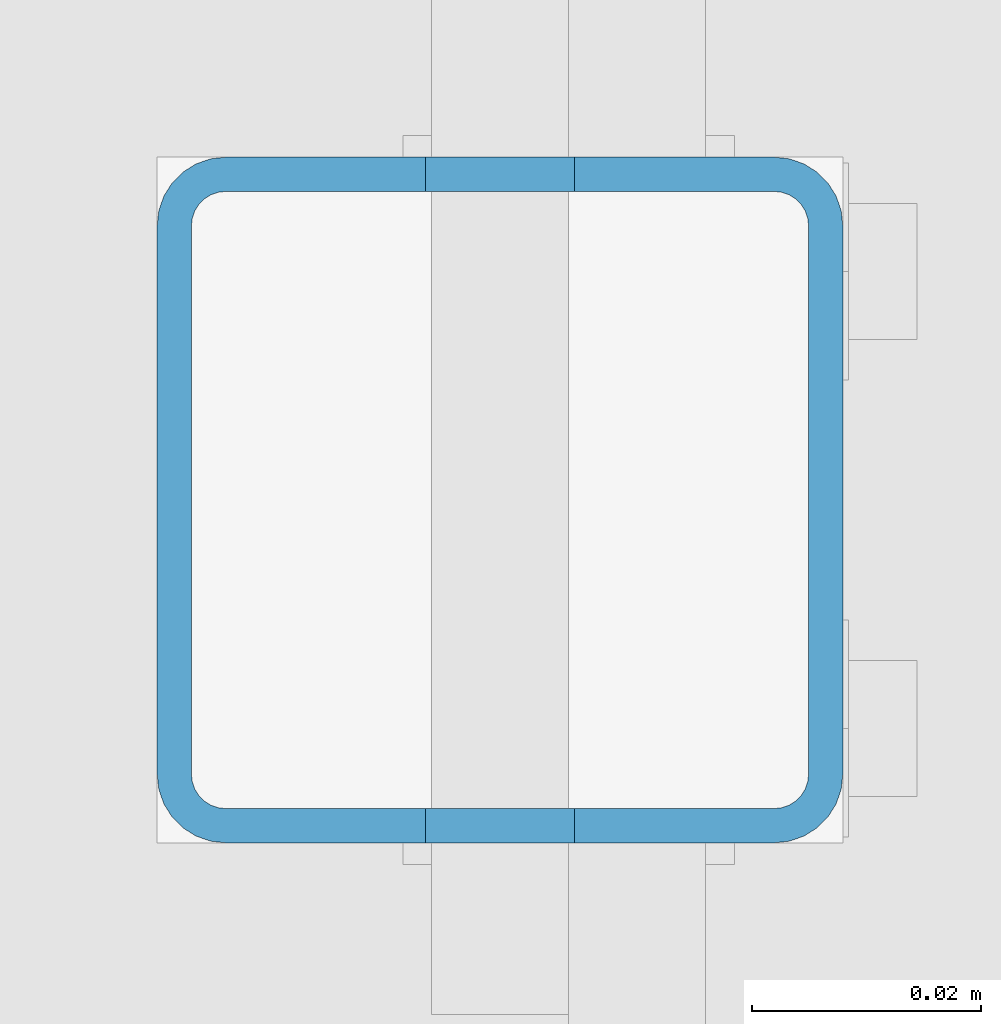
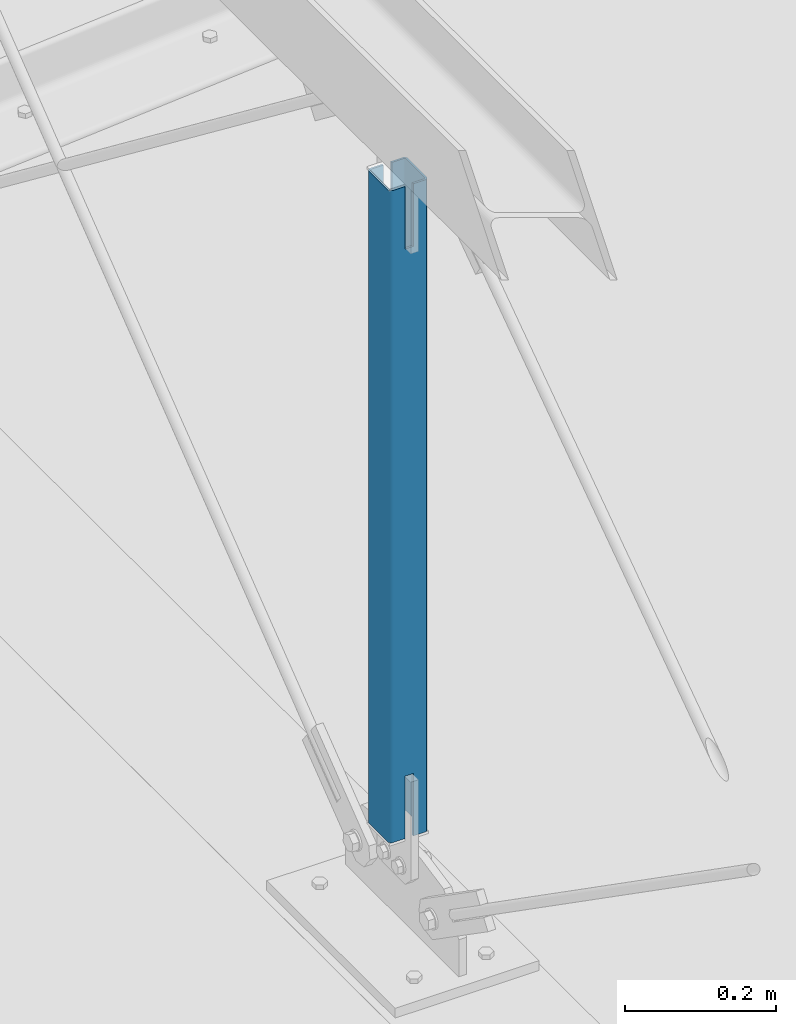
# One storey, part 19 of 271: 1 beam, 1 element without a shape of its own.
"""IFC2X3 building model written with IfcOpenShell, lengths in millimetres."""

import ifcopenshell
import ifcopenshell.guid

model = None  # the IFC model being written
_history = None  # IfcOwnerHistory: only IFC2X3 demands one
_inside = {}  # id of a spatial element -> (the spatial element, [elements in it])
_under = {}  # id of a project, library or spatial element -> (it, [spatial elements below it])
_declared = {}  # id of a project -> (the project, [libraries it declares])
_typed = {}  # id of a type object -> (the type object, [elements of that type])
_made_of = {}  # id of a material, layer set ... -> (it, [elements and type objects made of it])


def new_model(schema):
    """Start an empty IFC model of exactly this schema.

    Asked for "IFC4X3", IfcOpenShell would pick the latest addendum, in which some entities
    have other attributes; the version numbers below select the first issue.
    IFC2X3 requires an IfcOwnerHistory on every rooted entity: one is made here for all.
    """
    global model, _history
    if schema == "IFC4X3":
        model = ifcopenshell.file(schema_version=(4, 3, 0, 0))
    else:
        model = ifcopenshell.file(schema=schema)
    _inside.clear()
    _under.clear()
    _declared.clear()
    _typed.clear()
    _made_of.clear()
    _history = None
    if model.schema == "IFC2X3":
        org = make("IfcOrganization", Name="unknown")
        user = make(
            "IfcPersonAndOrganization",
            ThePerson=make("IfcPerson", FamilyName="unknown"),
            TheOrganization=org,
        )
        app = make(
            "IfcApplication",
            ApplicationDeveloper=org,
            Version="unknown",
            ApplicationFullName="unknown",
            ApplicationIdentifier="unknown",
        )
        _history = make(
            "IfcOwnerHistory",
            OwningUser=user,
            OwningApplication=app,
            ChangeAction="ADDED",
            CreationDate=0,
        )
    return model


def make(cls, **values):
    """One entity of the class cls with the attributes given. An attribute that is None is left unset."""
    return model.create_entity(
        cls, **{name: value for name, value in values.items() if value is not None}
    )


def rooted(cls, **values):
    """An entity with a GlobalId (a new one), such as an element, a storey or a relation."""
    return make(cls, GlobalId=ifcopenshell.guid.new(), OwnerHistory=_history, **values)


def si_unit(unit_type, name, prefix=None):
    """IfcSIUnit, for example si_unit("LENGTHUNIT", "METRE", prefix="MILLI")."""
    return make("IfcSIUnit", UnitType=unit_type, Prefix=prefix, Name=name)


def assignment(units):
    """IfcUnitAssignment: the units of a project."""
    return None if units is None else make("IfcUnitAssignment", Units=units)


def point(xyz):
    """IfcCartesianPoint."""
    return None if xyz is None else make("IfcCartesianPoint", Coordinates=xyz)


def direction(xyz):
    """IfcDirection."""
    return None if xyz is None else make("IfcDirection", DirectionRatios=xyz)


def frame(location, z_axis=None, x_axis=None):
    """IfcAxis2Placement3D, a coordinate frame: its origin and axes. An axis left out is left unset."""
    return make(
        "IfcAxis2Placement3D",
        Location=point(location),
        Axis=direction(z_axis),
        RefDirection=direction(x_axis),
    )


def frame_2d(location, x_axis=None):
    """IfcAxis2Placement2D, a coordinate frame in the plane: its origin and x axis."""
    return make(
        "IfcAxis2Placement2D", Location=point(location), RefDirection=direction(x_axis)
    )


def origin_with_axes():
    """The frame at (0, 0, 0) with the z axis (0, 0, 1) and the x axis (1, 0, 0) written out."""
    return frame((0.0, 0.0, 0.0), z_axis=(0.0, 0.0, 1.0), x_axis=(1.0, 0.0, 0.0))


def origin_2d_with_axis():
    """The frame at (0, 0) in the plane with the x axis (1, 0) written out."""
    return frame_2d((0.0, 0.0), x_axis=(1.0, 0.0))


def place(relative_to, where):
    """IfcLocalPlacement: puts the frame where relative to a parent placement (None: the world)."""
    return make(
        "IfcLocalPlacement", PlacementRelTo=relative_to, RelativePlacement=where
    )


def context(
    kind, dimensions, precision=None, world=None, true_north=None, identifier=None
):
    """IfcGeometricRepresentationContext, for example the 3D "Model" context."""
    return make(
        "IfcGeometricRepresentationContext",
        ContextIdentifier=identifier,
        ContextType=kind,
        CoordinateSpaceDimension=dimensions,
        Precision=precision,
        WorldCoordinateSystem=world,
        TrueNorth=true_north,
    )


def subcontext(parent, identifier, kind, view, scale=None):
    """IfcGeometricRepresentationSubContext, for example "Body" below "Model"."""
    return make(
        "IfcGeometricRepresentationSubContext",
        ContextIdentifier=identifier,
        ContextType=kind,
        ParentContext=parent,
        TargetScale=scale,
        TargetView=view,
    )


def project(units=None, contexts=None):
    """IfcProject with its units and contexts."""
    return rooted(
        "IfcProject",
        Name="project",
        RepresentationContexts=contexts,
        UnitsInContext=assignment(units),
    )


def spatial(cls, under=None, at=None, **own):
    """A site, building, storey or space (cls), placed at a placement, below another one or the project."""
    s = rooted(cls, ObjectPlacement=at, **own)
    if under is not None:
        _under.setdefault(under.id(), (under, []))[1].append(s)
    return s


def profile(cls, at=None, kind="AREA", **sizes):
    """A parametric profile (cls). Its sizes go by their IFC names, for example OverallWidth=200.0."""
    return make(cls, ProfileType=kind, Position=at, **sizes)


def rectangle(**sizes):
    """IfcRectangleProfileDef."""
    return profile("IfcRectangleProfileDef", **sizes)


def hollow_rectangle(**sizes):
    """IfcRectangleHollowProfileDef."""
    return profile("IfcRectangleHollowProfileDef", **sizes)


def extrude(swept, where, along, depth):
    """IfcExtrudedAreaSolid: the profile swept, set in the frame where, extruded along a direction by depth."""
    return make(
        "IfcExtrudedAreaSolid",
        SweptArea=swept,
        Position=where,
        ExtrudedDirection=direction(along),
        Depth=depth,
    )


def boolean(op, a, b):
    """IfcBooleanResult of two solids."""
    return make("IfcBooleanResult", Operator=op, FirstOperand=a, SecondOperand=b)


def halfspace(plane, agree):
    """IfcHalfSpaceSolid: all space on one side of the plane z = 0 of the frame plane."""
    return make(
        "IfcHalfSpaceSolid",
        BaseSurface=make("IfcPlane", Position=plane),
        AgreementFlag=agree,
    )


def shape(context_of_items, identifier, shape_type, items):
    """IfcShapeRepresentation: the items that make up one representation, for example the "Body"."""
    return make(
        "IfcShapeRepresentation",
        ContextOfItems=context_of_items,
        RepresentationIdentifier=identifier,
        RepresentationType=shape_type,
        Items=items,
    )


def material(Name=None, Category=None):
    """IfcMaterial."""
    return make("IfcMaterial", Name=Name, Category=Category)


def made_of(thing, what):
    """Note that an element or type object is made of a material, layer set ...; save() writes the relation."""
    if what is not None:
        _made_of.setdefault(what.id(), (what, []))[1].append(thing)
    return thing


def type_object(cls, material=None, **own):
    """A type object (cls), such as IfcWallType, which elements share."""
    return made_of(rooted(cls, **own), material)


def element(
    cls,
    number,
    at=None,
    inside=None,
    cuts=None,
    type_object=None,
    material=None,
    context=None,
    identifier="Body",
    shape_type=None,
    held_by="IfcProductDefinitionShape",
    body=None,
    shapes=None,
    **own,
):
    """One element of the class cls, such as IfcWall. Its Tag is "e" and its number.

    at: its placement. inside: the storey or other place that contains it. cuts: it is an
    opening in that element (IfcRelVoidsElement). A single representation is given by context,
    identifier, shape_type and body (its items); several are given by shapes. held_by: the class
    of the entity that holds the representations. save() writes the other relations.
    """
    e = rooted(cls, Tag="e%d" % number, ObjectPlacement=at, **own)
    if body is not None:
        shapes = [shape(context, identifier, shape_type, body)]
    if shapes is not None:
        e.Representation = make(held_by, Representations=shapes)
    if inside is not None:
        _inside.setdefault(inside.id(), (inside, []))[1].append(e)
    if cuts is not None:
        rooted(
            "IfcRelVoidsElement", RelatingBuildingElement=cuts, RelatedOpeningElement=e
        )
    if type_object is not None:
        _typed.setdefault(type_object.id(), (type_object, []))[1].append(e)
    return made_of(e, material)


def aggregate(whole, parts):
    """IfcRelAggregates: a whole, such as a stair, and the parts it consists of."""
    return rooted("IfcRelAggregates", RelatingObject=whole, RelatedObjects=parts)


def save(model, path):
    """Write the relations noted so far, then the file.

    IfcRelAggregates (storeys below a building ...), IfcRelContainedInSpatialStructure (elements
    in a storey), IfcRelDefinesByType, IfcRelAssociatesMaterial and IfcRelDeclares: one each for
    every whole, place, type object, material and project.
    """
    for whole, parts in _under.values():
        aggregate(whole, parts)
    for where, things in _inside.values():
        rooted(
            "IfcRelContainedInSpatialStructure",
            RelatedElements=things,
            RelatingStructure=where,
        )
    for kind, things in _typed.values():
        rooted("IfcRelDefinesByType", RelatedObjects=things, RelatingType=kind)
    for what, things in _made_of.values():
        rooted("IfcRelAssociatesMaterial", RelatedObjects=things, RelatingMaterial=what)
    for by, libraries in _declared.values():
        rooted("IfcRelDeclares", RelatingContext=by, RelatedDefinitions=libraries)
    model.write(path)


model = new_model("IFC2X3")

# Units and contexts
model_context = context("Model", 3, precision=1e-05, world=origin_with_axes())
body_context = subcontext(model_context, "Body", "Model", "MODEL_VIEW")
ifc_project = project(units=[si_unit("LENGTHUNIT", "METRE", prefix="MILLI"), si_unit("AREAUNIT", "SQUARE_METRE"), si_unit("VOLUMEUNIT", "CUBIC_METRE"), si_unit("MASSUNIT", "GRAM", prefix="KILO"), si_unit("TIMEUNIT", "SECOND"), si_unit("PLANEANGLEUNIT", "RADIAN"), si_unit("SOLIDANGLEUNIT", "STERADIAN"), si_unit("THERMODYNAMICTEMPERATUREUNIT", "DEGREE_CELSIUS"), si_unit("LUMINOUSINTENSITYUNIT", "LUMEN")], contexts=[model_context])

# Site, building, storey
site_placement = place(None, origin_with_axes())
site = spatial("IfcSite", under=ifc_project, at=site_placement, Name="Undefined", CompositionType="ELEMENT")
building_placement = place(site_placement, origin_with_axes())
building = spatial("IfcBuilding", under=site, at=building_placement, Name="Undefined", CompositionType="ELEMENT")
storey_placement = place(building_placement, origin_with_axes())
storey = spatial("IfcBuildingStorey", under=building, at=storey_placement, Name="Undefined", CompositionType="ELEMENT", Elevation=0.0)

# Assembly, beam
assembly_placement = place(storey_placement, origin_with_axes())
assembly = element("IfcElementAssembly", 1, at=assembly_placement, inside=storey, AssemblyPlace="NOTDEFINED", PredefinedType="RIGID_FRAME")
ifc_material = material(Name="STEEL/S355JR")
beam_type = type_object("IfcBeamType", Name="SHS60*3", PredefinedType="NOTDEFINED")
beam_placement = place(assembly_placement, frame((6347.37568767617, 1979.19355050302, -2.65000009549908), z_axis=(0.0, 1.0, 0.0), x_axis=(0.0, 0.0, 1.0)))
beam = element("IfcBeam", 2, at=beam_placement, type_object=beam_type, material=ifc_material, Name="TĘŻNIK", ObjectType="SHS60*3", context=body_context, shape_type="CSG", body=[
    boolean("DIFFERENCE", boolean("DIFFERENCE", boolean("DIFFERENCE", boolean("DIFFERENCE", boolean("DIFFERENCE", extrude(hollow_rectangle(XDim=60.0, YDim=60.0, WallThickness=3.0, InnerFilletRadius=3.0, OuterFilletRadius=6.0, at=origin_2d_with_axis()), frame((1367.0, 0.0, 0.0), z_axis=(-1.0, 0.0, 1.38777878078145e-17), x_axis=(0.0, -1.0, 0.0)), (0.0, 0.0, 1.0), 1367.0), extrude(rectangle(XDim=13.0, YDim=64.0, at=origin_2d_with_axis()), frame((257.525726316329, -3.08252310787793e-07, 0.0), z_axis=(-1.0, 0.0, 1.38777878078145e-17), x_axis=(0.0, -1.0, 0.0)), (0.0, 0.0, 1.0), 103.0)), extrude(rectangle(XDim=13.0, YDim=64.0, at=origin_2d_with_axis()), frame((1109.24999999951, -3.0825049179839e-07, 0.0), z_axis=(1.0, 0.0, 0.0), x_axis=(0.0, -1.0, 0.0)), (0.0, 0.0, 1.0), 103.0)), extrude(rectangle(XDim=13.0, YDim=64.0, at=origin_2d_with_axis()), frame((1109.24999999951, -3.0825049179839e-07, 0.0), z_axis=(1.0, 0.0, 0.0), x_axis=(0.0, -1.0, 0.0)), (0.0, 0.0, 1.0), 103.0)), halfspace(frame((1210.24999999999, 18.0000003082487, 0.0), z_axis=(-1.0, 0.0, 1.38777878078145e-17), x_axis=(0.0, 0.0, 1.0)), True)), halfspace(frame((156.525726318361, 18.0000003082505, 0.0), z_axis=(1.0, 0.0, 0.0), x_axis=(0.0, 0.0, -1.0)), True)),
])
aggregate(assembly, [beam])

save(model, "model.ifc")
